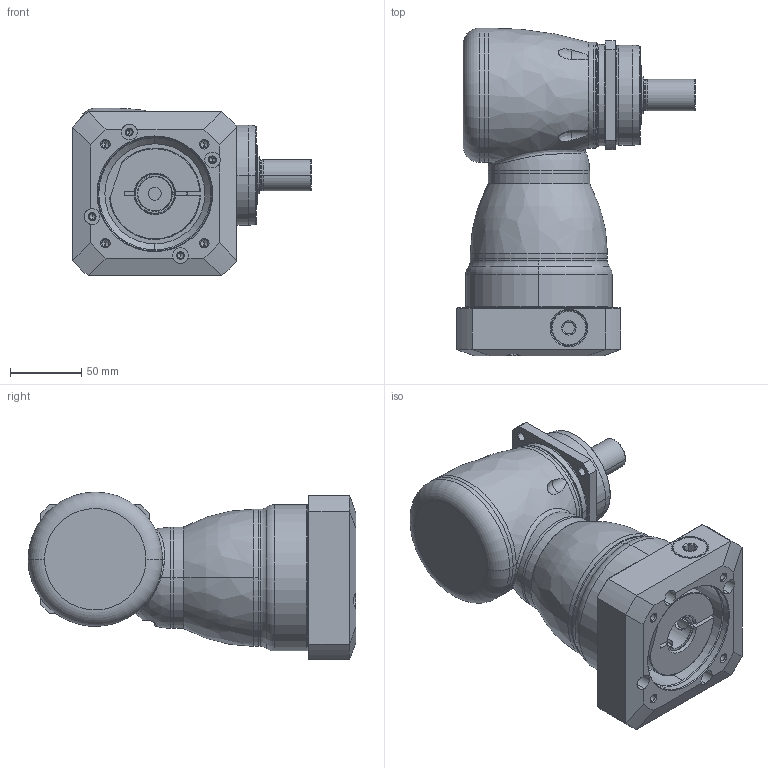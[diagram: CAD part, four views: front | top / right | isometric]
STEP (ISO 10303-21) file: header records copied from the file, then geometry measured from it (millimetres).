
FILE_DESCRIPTION((''),'2;1');
FILE_NAME('KF075_1ST_24-P0409500101_ASM','2016-06-21T',('d01943'),(''),'PRO/ENGINEER BY PARAMETRIC TECHNOLOGY CORPORATION, 2008410','PRO/ENGINEER BY PARAMETRIC TECHNOLOGY CORPORATION, 2008410','');
FILE_SCHEMA(('CONFIG_CONTROL_DESIGN'));
Length unit declared in the file: millimetre
Products named in the file (11): P1008300002; P1804300001; P0915300001; P1315300001; P1007300001; P1318300301; P0409500101; P0503500010; P0912303001; 21711418017; KF075_1ST_24-P0409500101_ASM
Assembly tree (10 placements, depth 2):
  KF075_1ST_24-P0409500101_ASM
    P1008300002
    P1804300001
    P0915300001
    P1315300001
    P1007300001
    P1318300301
    P0409500101
    P0503500010
    P0912303001
    21711418017
Bounding box: 167 x 229.5 x 117.5 mm (x, y, z)
Volume: 1359093.7 mm3; surface area: 237366.5 mm2
Topology: 11 solids, 11 shells, 484 faces, 1129 edges, 677 vertices
Faces by surface type: cylinder 163, cone 116, plane 89, torus 66, bspline 48, sphere 2
Entity records: 21845 total; most frequent: CARTESIAN_POINT 10764, DIRECTION 2394, ORIENTED_EDGE 2196, EDGE_CURVE 1098, AXIS2_PLACEMENT_3D 1021, VERTEX_POINT 670, CIRCLE 564, EDGE_LOOP 552
